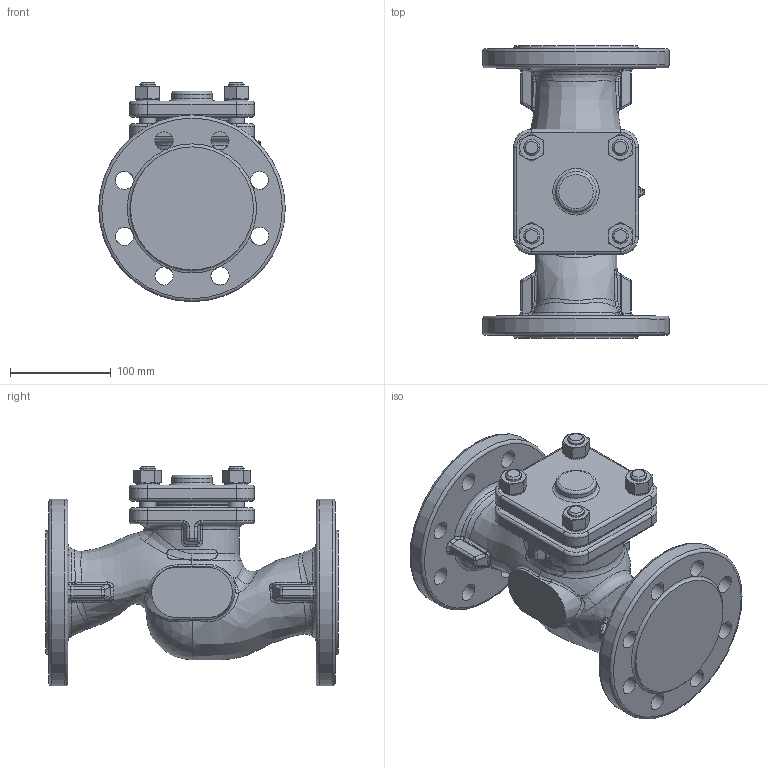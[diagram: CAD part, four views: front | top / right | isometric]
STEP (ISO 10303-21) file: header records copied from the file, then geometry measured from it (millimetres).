
FILE_DESCRIPTION(/* description */ (''),/* implementation_level */ '2;1');
FILE_NAME(/* name */ 'sestZV226_DN65.stp',/* time_stamp */ '2012-03-05T13:53:48+01:00',/* author */ (''),/* organization */ ('LDM'),/* preprocessor_version */ 'ST-DEVELOPER v11',/* originating_system */ 'SIEMENS PLM Software NX 7.0',/* authorisation */ '');
FILE_SCHEMA (('CONFIG_CONTROL_DESIGN'));
Length unit declared in the file: millimetre
Products named in the file (1): adam9E31eddr
Bounding box: 185 x 290 x 217.5 mm (x, y, z)
Volume: 3393884.2 mm3; surface area: 268098.1 mm2
Topology: 1 solids, 1 shells, 540 faces, 1309 edges, 764 vertices
Faces by surface type: cylinder 153, bspline 129, plane 123, cone 58, torus 57, sphere 18, extrusion 2
Full cylindrical faces by diameter (mm): 16 x12, 18 x16, 40 x1, 88 x1, 98 x1, 185 x2
Entity records: 32234 total; most frequent: CARTESIAN_POINT 20863, ORIENTED_EDGE 2428, DIRECTION 2208, EDGE_CURVE 1214, AXIS2_PLACEMENT_3D 962, VERTEX_POINT 730, EDGE_LOOP 642, ADVANCED_FACE 540
